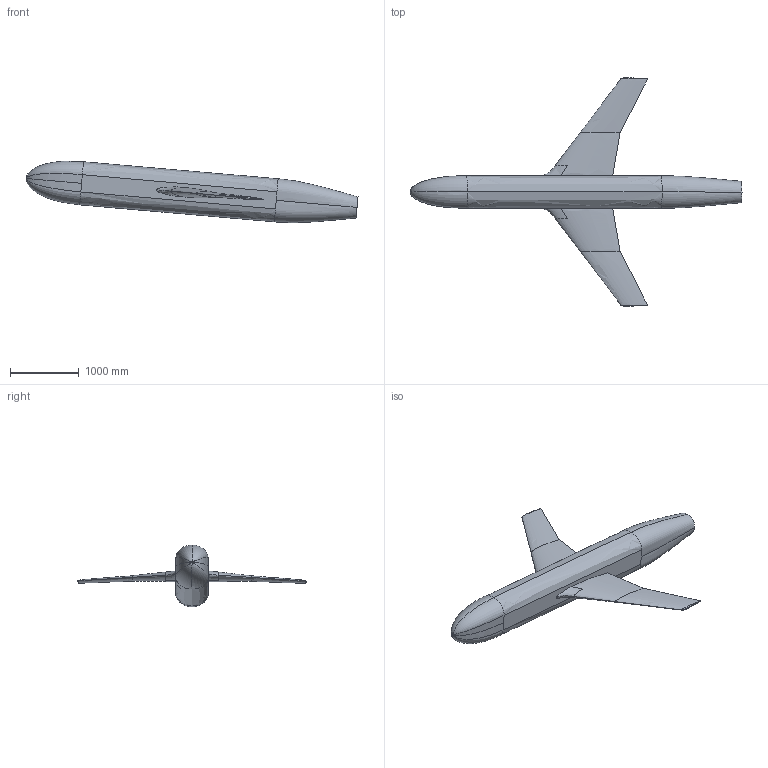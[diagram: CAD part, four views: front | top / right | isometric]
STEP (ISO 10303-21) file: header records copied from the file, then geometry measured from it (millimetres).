
FILE_DESCRIPTION(/* description */ (''),/* implementation_level */ '2;1');
FILE_NAME(/* name */ 'jfm_0015_based_wHorn_harrison_fuselage_2017_02_06_fullspan-5deg_in_tunnel_mod.stp',/* time_stamp */ '2022-08-22T14:14:00-04:00',/* author */ (''),/* organization */ (''),/* preprocessor_version */ 'ST-DEVELOPER v16',/* originating_system */ 'SIEMENS PLM Software NX 10.0',/* authorisation */ '');
FILE_SCHEMA (('AP203_CONFIGURATION_CONTROLLED_3D_DESIGN_OF_MECHANICAL_PARTS_AND_ASSEMBLIES_MIM_LF { 1 0 10303 403 2 1 2}'));
Products named in the file (1): sbry4E4082DFvl1v
Bounding box: 4834.38 x 3325.86 x 895.29 mm (x, y, z)
Volume: 1196545937.9 mm3; surface area: 11766172.4 mm2
Topology: 1 solids, 1 shells, 41 faces, 96 edges, 51 vertices
Faces by surface type: bspline 24, plane 9, extrusion 8
Entity records: 35571 total; most frequent: CARTESIAN_POINT 34858, ORIENTED_EDGE 176, EDGE_CURVE 88, B_SPLINE_CURVE_WITH_KNOTS 88, VERTEX_POINT 51, EDGE_LOOP 43, ADVANCED_FACE 41, FACE_OUTER_BOUND 39
